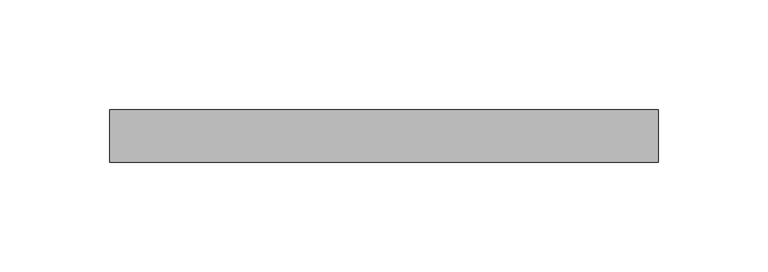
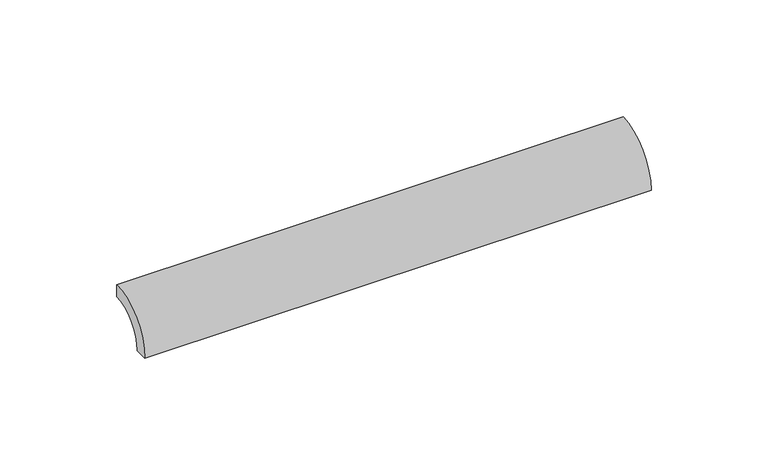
"""IFC4 building model written with IfcOpenShell, lengths in millimetres: proxy geometry, EXAGRES - Piscina Arista : Publica_Azul_24.5x3cm."""

from ifc_helpers import new_model, si_unit, point, frame, frame_2d, origin, place, context, project, spatial, polyline, circle_curve, trimmed, segment, composite_curve, outline, extrude, source, transform, mapped, element, save


def generic_models_11448745(model_context):
    return source(origin(), model_context, "Body", "SweptSolid", [
        extrude(outline(composite_curve([segment(trimmed(circle_curve(frame_2d((23.9, -23.9)), 23.9), [point((0.0, -23.9))], [point((23.9, 0.0))], False, "CARTESIAN"), True, "CONTINUOUS"), segment(polyline([(23.9, 0.0), (23.9, -6.4)]), True, "CONTINUOUS"), segment(trimmed(circle_curve(frame_2d((23.9, -23.9)), 17.5), [point((23.9, -6.4))], [point((6.4, -23.9))], True, "CARTESIAN"), True, "CONTINUOUS"), segment(polyline([(6.4, -23.9), (0.0, -23.9)]), True, "CONTINUOUS")], self_intersect=False)), frame((0.0, 0.0, 0.0), z_axis=(1.0, 0.0, 0.0), x_axis=(0.0, 1.0, 0.0)), (0.0, 0.0, 1.0), 250.0),
    ])


if __name__ == "__main__":
    model = new_model("IFC4")
    model_context = context("Model", 3, world=origin())
    ifc_project = project(units=[si_unit("LENGTHUNIT", "METRE", prefix="MILLI")], contexts=[model_context])
    site = spatial("IfcSite", under=ifc_project)
    building = spatial("IfcBuilding", under=site)
    placement = place(None, origin())
    generic_models_shape = generic_models_11448745(model_context)
    element("IfcBuildingElementProxy", 1, Name="EXAGRES - Piscina Arista : Publica_Azul_24.5x3cm", ObjectType="EXAGRES - Piscina Arista : Publica_Azul_24.5x3cm", at=placement, inside=building, context=model_context, shape_type="MappedRepresentation", body=[
        mapped(generic_models_shape, transform((0.0, 0.0, 0.0), x_axis=(1.0, 0.0, 0.0), y_axis=(0.0, 1.0, 0.0), z_axis=(0.0, 0.0, 1.0))),
    ])
    save(model, "model.ifc")
